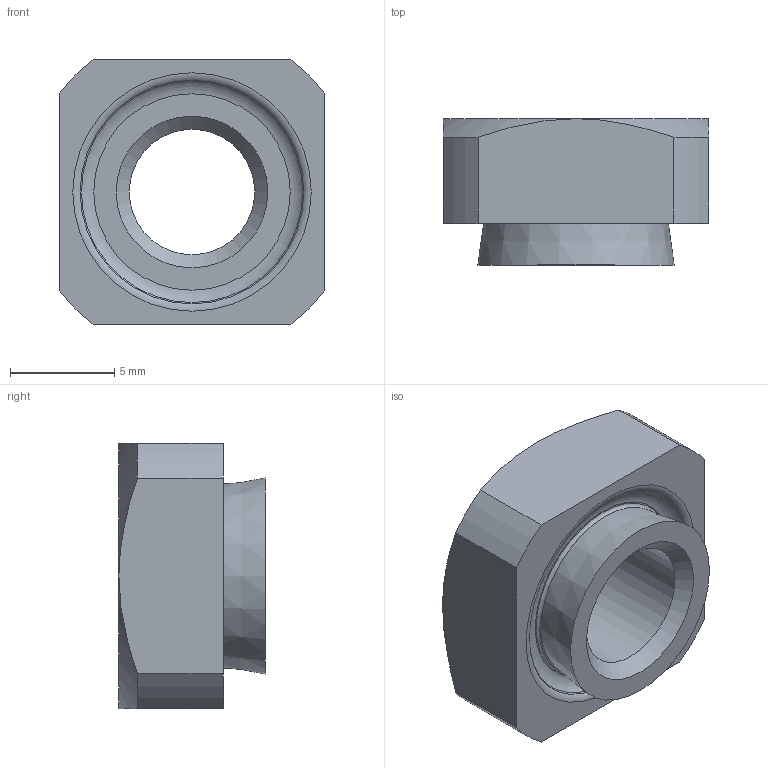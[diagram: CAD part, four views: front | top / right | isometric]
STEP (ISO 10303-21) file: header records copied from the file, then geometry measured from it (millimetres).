
FILE_DESCRIPTION(/* description */ (''),/* implementation_level */ '2;1');
FILE_NAME(/* name */ 'D:\Sukhmani\Fastit\HN Nut\HN 6-2.5.stp',/* time_stamp */ '2024-03-14T12:23:41+06:00',/* author */ ('edc.sukhmani'),/* organization */ (''),/* preprocessor_version */ 'ST-DEVELOPER v18.1',/* originating_system */ 'Autodesk Inventor 2022',/* authorisation */ '');
FILE_SCHEMA (('AUTOMOTIVE_DESIGN { 1 0 10303 214 3 1 1 }'));
Length unit declared in the file: millimetre
Products named in the file (1): HN 6-2.5
Bounding box: 12.72 x 7 x 12.72 mm (x, y, z)
Volume: 681.8 mm3; surface area: 680.8 mm2
Topology: 1 solids, 1 shells, 25 faces, 58 edges, 37 vertices
Faces by surface type: cone 8, plane 8, cylinder 6, torus 3
Full cylindrical faces by diameter (mm): 6 x1, 7.25 x1
Entity records: 763 total; most frequent: CARTESIAN_POINT 137, DIRECTION 134, ORIENTED_EDGE 116, EDGE_CURVE 58, AXIS2_PLACEMENT_3D 58, VERTEX_POINT 37, CIRCLE 32, EDGE_LOOP 29
